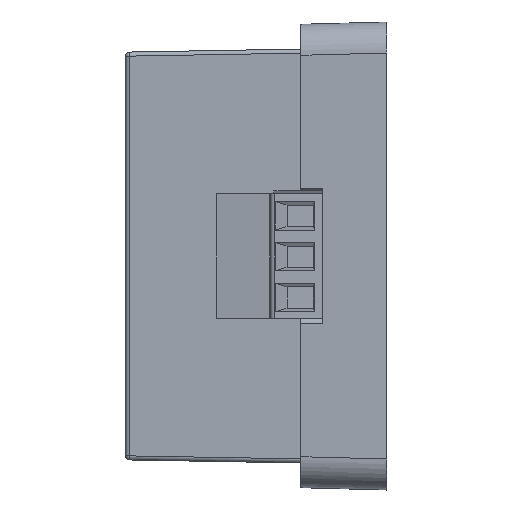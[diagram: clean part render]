
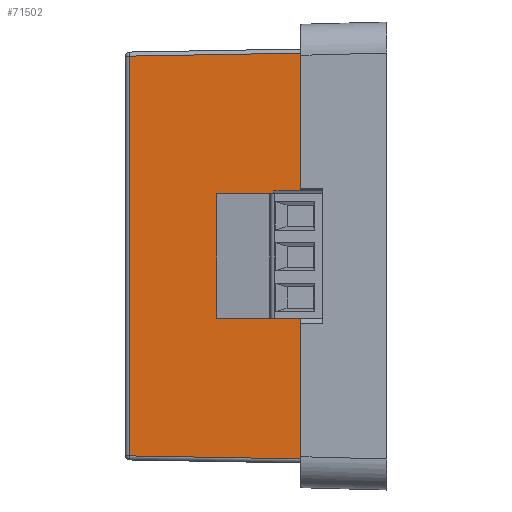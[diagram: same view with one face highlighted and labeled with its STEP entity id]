
A CAD part, left-side view. The second image highlights one B-rep face of the part: STEP entity #71502.
In plain terms, the highlighted planar face has unit normal (-1, 0.018, 0).
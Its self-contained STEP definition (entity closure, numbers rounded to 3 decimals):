
#729 = VECTOR ( 'NONE', #18704, 1000. ) ;
#4485 = EDGE_CURVE ( 'NONE', #4514, #61463, #26563, .T. ) ;
#4514 = VERTEX_POINT ( 'NONE', #11691 ) ;
#7139 = CARTESIAN_POINT ( 'NONE',  ( -36.382, -13.251, 100.885 ) ) ;
#7704 = CARTESIAN_POINT ( 'NONE',  ( -36.397, -14.128, 51.1 ) ) ;
#9818 = DIRECTION ( 'NONE',  ( 0., 0., -1. ) ) ;
#11365 = VERTEX_POINT ( 'NONE', #7704 ) ;
#11691 = CARTESIAN_POINT ( 'NONE',  ( -35.969, 10.381, 100.472 ) ) ;
#12853 = CARTESIAN_POINT ( 'NONE',  ( -35.969, 10.381, 51.528 ) ) ;
#13119 = CARTESIAN_POINT ( 'NONE',  ( -36.397, -14.137, 51.1 ) ) ;
#16079 = ORIENTED_EDGE ( 'NONE', *, *, #4485, .T. ) ;
#18704 = DIRECTION ( 'NONE',  ( 0.017, 1., -0.017 ) ) ;
#19335 = CARTESIAN_POINT ( 'NONE',  ( -36.397, -14.128, 50.6 ) ) ;
#25534 = VECTOR ( 'NONE', #55818, 1000. ) ;
#25739 = CARTESIAN_POINT ( 'NONE',  ( -36.397, -14.128, 50.6 ) ) ;
#26047 = ORIENTED_EDGE ( 'NONE', *, *, #29253, .T. ) ;
#26563 = LINE ( 'NONE', #44966, #25534 ) ;
#28656 = DIRECTION ( 'NONE',  ( -0.017, -1., -0.017 ) ) ;
#29253 = EDGE_CURVE ( 'NONE', #62488, #4514, #61753, .T. ) ;
#30159 = VECTOR ( 'NONE', #9818, 1000. ) ;
#39259 = PLANE ( 'NONE',  #44498 ) ;
#42568 = VECTOR ( 'NONE', #28656, 1000. ) ;
#44498 = AXIS2_PLACEMENT_3D ( 'NONE', #19335, #68179, #69608 ) ;
#44966 = CARTESIAN_POINT ( 'NONE',  ( -35.969, 10.381, 50.6 ) ) ;
#45467 = EDGE_CURVE ( 'NONE', #62488, #11365, #64393, .T. ) ;
#48398 = EDGE_CURVE ( 'NONE', #61463, #11365, #57224, .T. ) ;
#51639 = EDGE_LOOP ( 'NONE', ( #16079, #66756, #61109, #26047 ) ) ;
#55818 = DIRECTION ( 'NONE',  ( 0., 0., -1. ) ) ;
#57224 = LINE ( 'NONE', #13119, #42568 ) ;
#60055 = CARTESIAN_POINT ( 'NONE',  ( -36.397, -14.128, 100.9 ) ) ;
#61109 = ORIENTED_EDGE ( 'NONE', *, *, #45467, .F. ) ;
#61463 = VERTEX_POINT ( 'NONE', #12853 ) ;
#61753 = LINE ( 'NONE', #7139, #729 ) ;
#62488 = VERTEX_POINT ( 'NONE', #60055 ) ;
#64393 = LINE ( 'NONE', #25739, #30159 ) ;
#66737 = FACE_OUTER_BOUND ( 'NONE', #51639, .T. ) ;
#66756 = ORIENTED_EDGE ( 'NONE', *, *, #48398, .T. ) ;
#68179 = DIRECTION ( 'NONE',  ( -1., 0.017, 0. ) ) ;
#69608 = DIRECTION ( 'NONE',  ( 0.017, 1., 0. ) ) ;
#71502 = ADVANCED_FACE ( 'NONE', ( #66737 ), #39259, .T. ) ;
